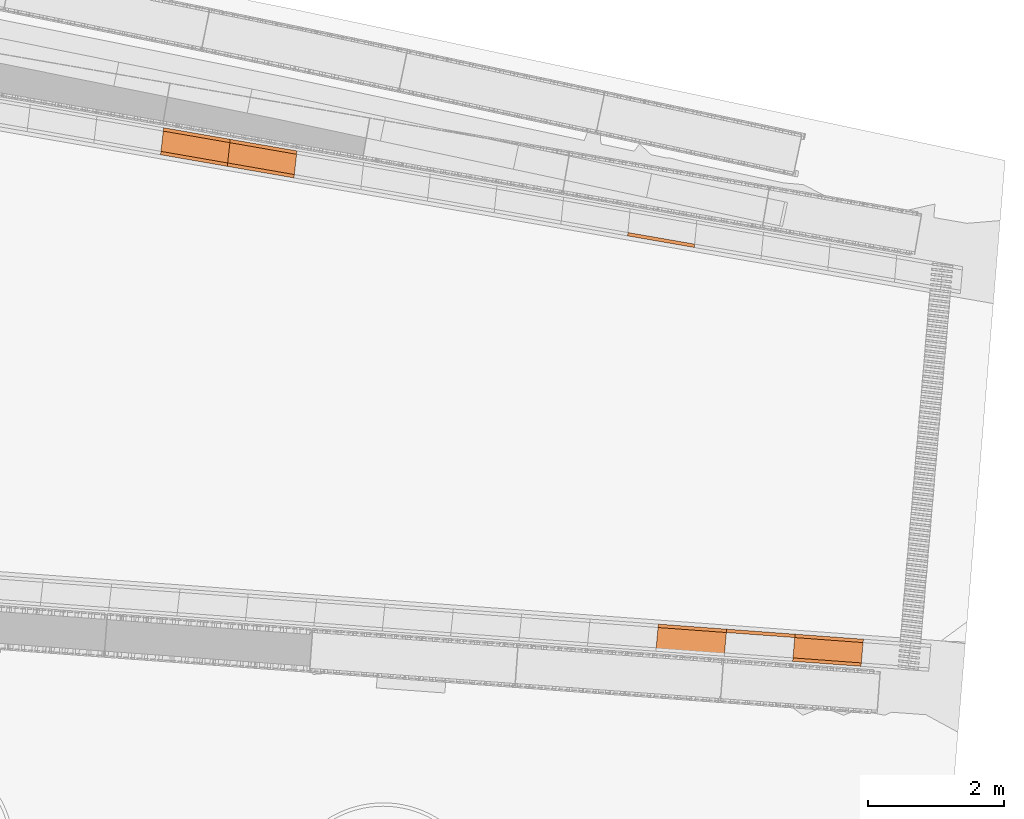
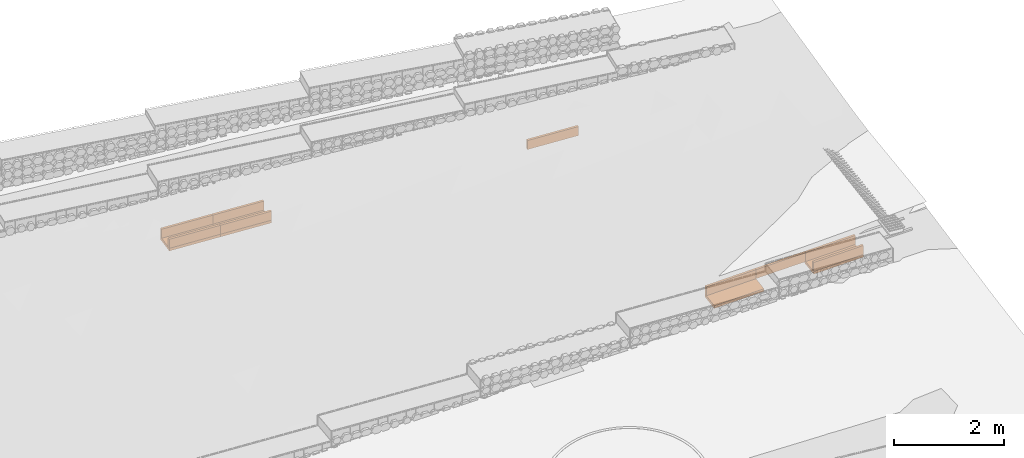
# Not in any storey, part 39 of 46: 13 proxies.
"""IFC4 model written with IfcOpenShell, lengths in metres."""

from ifc_helpers import new_model, si_unit, direction, frame, origin_with_axes, place, context, subcontext, project, spatial, polygons, material, element, save


model = new_model("IFC4")

# Units and contexts
model_context = context("Model", 3, precision=1e-05, world=origin_with_axes(), true_north=direction((0.0, 1.0)))
body_context = subcontext(model_context, "Body", "Model", "MODEL_VIEW")
ifc_project = project(units=[si_unit("VOLUMEUNIT", "CUBIC_METRE"), si_unit("LENGTHUNIT", "METRE"), si_unit("AREAUNIT", "SQUARE_METRE")], contexts=[model_context])

# Site
site_placement = place(None, origin_with_axes())
site = spatial("IfcSite", under=ifc_project, at=site_placement, Name="Lares · Rua das Mercês · artigo 4771")

# Proxies
ifc_material = material(Name="Caleiras · betão", Category="concrete")
proxy_1_placement = place(site_placement, frame((0.0, 0.0, 0.0), z_axis=(0.0, 0.0, 1.0), x_axis=(1.0, -1.03767253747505e-17, 0.0)))
element("IfcBuildingElementProxy", 1, at=proxy_1_placement, inside=site, material=ifc_material, Name="Acesso · canal lateral", ObjectType="Acesso · canal lateral", PredefinedType="USERDEFINED", context=body_context, shape_type="Tessellation", body=[
    polygons([(78.7315744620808, 0.381832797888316, 15.5703670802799), (78.7690199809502, 0.780076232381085, 15.5703670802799), (79.774022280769, 0.706180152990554, 15.6448251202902), (79.7365767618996, 0.307936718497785, 15.6448251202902), (78.7315744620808, 0.381832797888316, 15.6303670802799), (78.7690199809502, 0.780076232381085, 15.6303670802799), (79.774022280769, 0.706180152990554, 15.7048251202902), (79.7365767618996, 0.307936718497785, 15.7048251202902)], [[[4, 3, 2, 1]], [[5, 6, 7, 8]], [[1, 2, 6, 5]], [[2, 3, 7, 6]], [[3, 4, 8, 7]], [[4, 1, 5, 8]]]),
])
proxy_2_placement = place(site_placement, frame((0.0, 0.0, 0.0), z_axis=(0.0, 0.0, 1.0), x_axis=(1.0, -1.03767253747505e-17, 0.0)))
element("IfcBuildingElementProxy", 2, at=proxy_2_placement, inside=site, material=ifc_material, Name="Acesso · canal lateral", ObjectType="Acesso · canal lateral", PredefinedType="USERDEFINED", context=body_context, shape_type="Tessellation", body=[
    polygons([(78.7643392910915, 0.730295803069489, 15.6303670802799), (78.7690199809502, 0.780076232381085, 15.6303670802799), (79.774022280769, 0.706180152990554, 15.7048251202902), (79.7693415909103, 0.656399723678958, 15.7048251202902), (78.7643392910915, 0.730295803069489, 15.8303670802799), (78.7690199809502, 0.780076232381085, 15.8303670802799), (79.774022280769, 0.706180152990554, 15.9048251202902), (79.7693415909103, 0.656399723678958, 15.9048251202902)], [[[4, 3, 2, 1]], [[5, 6, 7, 8]], [[1, 2, 6, 5]], [[2, 3, 7, 6]], [[3, 4, 8, 7]], [[4, 1, 5, 8]]]),
])
proxy_3_placement = place(site_placement, frame((0.0, 0.0, 0.0), z_axis=(0.0, 0.0, 1.0), x_axis=(1.0, -1.03767253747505e-17, 0.0)))
element("IfcBuildingElementProxy", 3, at=proxy_3_placement, inside=site, material=ifc_material, Name="Acesso · canal lateral", ObjectType="Acesso · canal lateral", PredefinedType="USERDEFINED", context=body_context, shape_type="Tessellation", body=[
    polygons([(79.7689341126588, 0.656437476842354, 15.7048251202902), (79.7734789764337, 0.706230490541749, 15.7048251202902), (80.7785074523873, 0.632333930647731, 15.7792831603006), (80.7739625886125, 0.582540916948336, 15.7792831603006), (79.7689341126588, 0.656437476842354, 15.9048251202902), (79.7734789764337, 0.706230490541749, 15.9048251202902), (80.7785074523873, 0.632333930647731, 15.9792831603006), (80.7739625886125, 0.582540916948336, 15.9792831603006)], [[[4, 3, 2, 1]], [[5, 6, 7, 8]], [[1, 2, 6, 5]], [[2, 3, 7, 6]], [[3, 4, 8, 7]], [[4, 1, 5, 8]]]),
])
proxy_4_placement = place(site_placement, frame((0.0, 0.0, 0.0), z_axis=(0.0, 0.0, 1.0), x_axis=(1.0, -1.03767253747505e-17, 0.0)))
element("IfcBuildingElementProxy", 4, at=proxy_4_placement, inside=site, material=ifc_material, Name="Acesso · canal lateral", ObjectType="Acesso · canal lateral", PredefinedType="USERDEFINED", context=body_context, shape_type="Tessellation", body=[
    polygons([(80.742712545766, 0.23393914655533, 15.7192831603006), (80.7779434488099, 0.632384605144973, 15.7192831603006), (81.7829995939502, 0.558487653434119, 15.793741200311), (81.7477686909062, 0.160042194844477, 15.793741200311), (80.742712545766, 0.23393914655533, 15.7792831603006), (80.7779434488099, 0.632384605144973, 15.7792831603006), (81.7829995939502, 0.558487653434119, 15.853741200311), (81.7477686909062, 0.160042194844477, 15.853741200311)], [[[4, 3, 2, 1]], [[5, 6, 7, 8]], [[1, 2, 6, 5]], [[2, 3, 7, 6]], [[3, 4, 8, 7]], [[4, 1, 5, 8]]]),
])
proxy_5_placement = place(site_placement, frame((0.0, 0.0, 0.0), z_axis=(0.0, 0.0, 1.0), x_axis=(1.0, -1.03767253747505e-17, 0.0)))
element("IfcBuildingElementProxy", 5, at=proxy_5_placement, inside=site, material=ifc_material, Name="Acesso · canal lateral", ObjectType="Acesso · canal lateral", PredefinedType="USERDEFINED", context=body_context, shape_type="Tessellation", body=[
    polygons([(80.742712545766, 0.23393914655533, 15.7792831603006), (80.7471164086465, 0.283744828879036, 15.7792831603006), (81.7521725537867, 0.209847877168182, 15.853741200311), (81.7477686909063, 0.160042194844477, 15.853741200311), (80.742712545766, 0.23393914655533, 15.9792831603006), (80.7471164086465, 0.283744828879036, 15.9792831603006), (81.7521725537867, 0.209847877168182, 16.053741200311), (81.7477686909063, 0.160042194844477, 16.053741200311)], [[[4, 3, 2, 1]], [[5, 6, 7, 8]], [[1, 2, 6, 5]], [[2, 3, 7, 6]], [[3, 4, 8, 7]], [[4, 1, 5, 8]]]),
])
proxy_6_placement = place(site_placement, frame((0.0, 0.0, 0.0), z_axis=(0.0, 0.0, 1.0), x_axis=(1.0, -1.03767253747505e-17, 0.0)))
element("IfcBuildingElementProxy", 6, at=proxy_6_placement, inside=site, material=ifc_material, Name="Acesso · canal lateral", ObjectType="Acesso · canal lateral", PredefinedType="USERDEFINED", context=body_context, shape_type="Tessellation", body=[
    polygons([(80.7735395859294, 0.582578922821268, 15.7792831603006), (80.7779434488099, 0.632384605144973, 15.7792831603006), (81.7829995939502, 0.558487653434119, 15.853741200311), (81.7785957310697, 0.508681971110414, 15.853741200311), (80.7735395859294, 0.582578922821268, 15.9792831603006), (80.7779434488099, 0.632384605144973, 15.9792831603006), (81.7829995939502, 0.558487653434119, 16.053741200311), (81.7785957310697, 0.508681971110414, 16.053741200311)], [[[4, 3, 2, 1]], [[5, 6, 7, 8]], [[1, 2, 6, 5]], [[2, 3, 7, 6]], [[3, 4, 8, 7]], [[4, 1, 5, 8]]]),
])
proxy_7_placement = place(site_placement, frame((0.0, 0.0, 0.0), z_axis=(0.0, 0.0, 1.0), x_axis=(1.0, -1.03767253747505e-17, 0.0)))
element("IfcBuildingElementProxy", 7, at=proxy_7_placement, inside=site, material=ifc_material, Name="Acesso · canal lateral", ObjectType="Acesso · canal lateral", PredefinedType="USERDEFINED", context=body_context, shape_type="Tessellation", body=[
    polygons([(71.4526928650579, 7.67865536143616, 14.9747027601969), (71.4975774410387, 8.0761291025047, 14.9747027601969), (72.47777736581, 7.90582020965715, 15.0491608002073), (72.4328927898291, 7.50834646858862, 15.0491608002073), (71.4526928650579, 7.67865536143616, 15.034702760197), (71.4975774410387, 8.0761291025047, 15.034702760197), (72.47777736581, 7.90582020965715, 15.1091608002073), (72.4328927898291, 7.50834646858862, 15.1091608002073)], [[[4, 3, 2, 1]], [[5, 6, 7, 8]], [[1, 2, 6, 5]], [[2, 3, 7, 6]], [[3, 4, 8, 7]], [[4, 1, 5, 8]]]),
])
proxy_8_placement = place(site_placement, frame((0.0, 0.0, 0.0), z_axis=(0.0, 0.0, 1.0), x_axis=(1.0, -1.03767253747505e-17, 0.0)))
element("IfcBuildingElementProxy", 8, at=proxy_8_placement, inside=site, material=ifc_material, Name="Acesso · canal lateral", ObjectType="Acesso · canal lateral", PredefinedType="USERDEFINED", context=body_context, shape_type="Tessellation", body=[
    polygons([(71.4526928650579, 7.67865536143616, 15.034702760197), (71.4583034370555, 7.72833957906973, 15.034702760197), (72.4385033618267, 7.55803068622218, 15.1091608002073), (72.4328927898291, 7.50834646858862, 15.1091608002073), (71.4526928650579, 7.67865536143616, 15.2347027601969), (71.4583034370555, 7.72833957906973, 15.2347027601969), (72.4385033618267, 7.55803068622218, 15.3091608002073), (72.4328927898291, 7.50834646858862, 15.3091608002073)], [[[4, 3, 2, 1]], [[5, 6, 7, 8]], [[1, 2, 6, 5]], [[2, 3, 7, 6]], [[3, 4, 8, 7]], [[4, 1, 5, 8]]]),
])
proxy_9_placement = place(site_placement, frame((0.0, 0.0, 0.0), z_axis=(0.0, 0.0, 1.0), x_axis=(1.0, -1.03767253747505e-17, 0.0)))
element("IfcBuildingElementProxy", 9, at=proxy_9_placement, inside=site, material=ifc_material, Name="Acesso · canal lateral", ObjectType="Acesso · canal lateral", PredefinedType="USERDEFINED", context=body_context, shape_type="Tessellation", body=[
    polygons([(71.4919668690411, 8.02644488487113, 15.034702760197), (71.4975774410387, 8.0761291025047, 15.034702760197), (72.47777736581, 7.90582020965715, 15.1091608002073), (72.4721667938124, 7.85613599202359, 15.1091608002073), (71.4919668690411, 8.02644488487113, 15.2347027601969), (71.4975774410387, 8.0761291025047, 15.2347027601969), (72.47777736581, 7.90582020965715, 15.3091608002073), (72.4721667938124, 7.85613599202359, 15.3091608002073)], [[[4, 3, 2, 1]], [[5, 6, 7, 8]], [[1, 2, 6, 5]], [[2, 3, 7, 6]], [[3, 4, 8, 7]], [[4, 1, 5, 8]]]),
])
proxy_10_placement = place(site_placement, frame((0.0, 0.0, 0.0), z_axis=(0.0, 0.0, 1.0), x_axis=(1.0, -1.03767253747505e-17, 0.0)))
element("IfcBuildingElementProxy", 10, at=proxy_10_placement, inside=site, material=ifc_material, Name="Acesso · canal lateral", ObjectType="Acesso · canal lateral", PredefinedType="USERDEFINED", context=body_context, shape_type="Tessellation", body=[
    polygons([(72.4333046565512, 7.50830039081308, 15.0491608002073), (72.477365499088, 7.90586628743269, 15.0491608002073), (73.4575480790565, 7.7355582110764, 15.1236188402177), (73.4134872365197, 7.3379923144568, 15.1236188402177), (72.4333046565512, 7.50830039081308, 15.1091608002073), (72.477365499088, 7.90586628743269, 15.1091608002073), (73.4575480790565, 7.7355582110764, 15.1836188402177), (73.4134872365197, 7.3379923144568, 15.1836188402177)], [[[4, 3, 2, 1]], [[5, 6, 7, 8]], [[1, 2, 6, 5]], [[2, 3, 7, 6]], [[3, 4, 8, 7]], [[4, 1, 5, 8]]]),
])
proxy_11_placement = place(site_placement, frame((0.0, 0.0, 0.0), z_axis=(0.0, 0.0, 1.0), x_axis=(1.0, -1.03767253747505e-17, 0.0)))
element("IfcBuildingElementProxy", 11, at=proxy_11_placement, inside=site, material=ifc_material, Name="Acesso · canal lateral", ObjectType="Acesso · canal lateral", PredefinedType="USERDEFINED", context=body_context, shape_type="Tessellation", body=[
    polygons([(72.4333046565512, 7.50830039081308, 15.1091608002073), (72.4388122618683, 7.55799612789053, 15.1091608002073), (73.4189948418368, 7.38768805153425, 15.1836188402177), (73.4134872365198, 7.3379923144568, 15.1836188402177), (72.4333046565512, 7.50830039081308, 15.3091608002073), (72.4388122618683, 7.55799612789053, 15.3091608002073), (73.4189948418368, 7.38768805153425, 15.3836188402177), (73.4134872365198, 7.3379923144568, 15.3836188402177)], [[[4, 3, 2, 1]], [[5, 6, 7, 8]], [[1, 2, 6, 5]], [[2, 3, 7, 6]], [[3, 4, 8, 7]], [[4, 1, 5, 8]]]),
])
proxy_12_placement = place(site_placement, frame((0.0, 0.0, 0.0), z_axis=(0.0, 0.0, 1.0), x_axis=(1.0, -1.03767253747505e-17, 0.0)))
element("IfcBuildingElementProxy", 12, at=proxy_12_placement, inside=site, material=ifc_material, Name="Acesso · canal lateral", ObjectType="Acesso · canal lateral", PredefinedType="USERDEFINED", context=body_context, shape_type="Tessellation", body=[
    polygons([(72.4718578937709, 7.85617055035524, 15.1091608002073), (72.477365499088, 7.90586628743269, 15.1091608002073), (73.4575480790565, 7.7355582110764, 15.1836188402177), (73.4520404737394, 7.68586247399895, 15.1836188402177), (72.4718578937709, 7.85617055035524, 15.3091608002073), (72.477365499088, 7.90586628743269, 15.3091608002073), (73.4575480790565, 7.7355582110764, 15.3836188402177), (73.4520404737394, 7.68586247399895, 15.3836188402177)], [[[4, 3, 2, 1]], [[5, 6, 7, 8]], [[1, 2, 6, 5]], [[2, 3, 7, 6]], [[3, 4, 8, 7]], [[4, 1, 5, 8]]]),
])
proxy_13_placement = place(site_placement, frame((0.0, 0.0, 0.0), z_axis=(0.0, 0.0, 1.0), x_axis=(1.0, -1.03767253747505e-17, 0.0)))
element("IfcBuildingElementProxy", 13, at=proxy_13_placement, inside=site, material=ifc_material, Name="Acesso · canal lateral", ObjectType="Acesso · canal lateral", PredefinedType="USERDEFINED", context=body_context, shape_type="Tessellation", body=[
    polygons([(78.3168915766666, 6.48617454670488, 15.5559090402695), (78.3217031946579, 6.53594249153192, 15.5559090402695), (79.3017613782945, 6.36563874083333, 15.6303670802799), (79.2969497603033, 6.3158707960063, 15.6303670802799), (78.3168915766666, 6.48617454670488, 15.7559090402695), (78.3217031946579, 6.53594249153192, 15.7559090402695), (79.3017613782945, 6.36563874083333, 15.8303670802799), (79.2969497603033, 6.3158707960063, 15.8303670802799)], [[[4, 3, 2, 1]], [[5, 6, 7, 8]], [[1, 2, 6, 5]], [[2, 3, 7, 6]], [[3, 4, 8, 7]], [[4, 1, 5, 8]]]),
])

save(model, "model.ifc")
